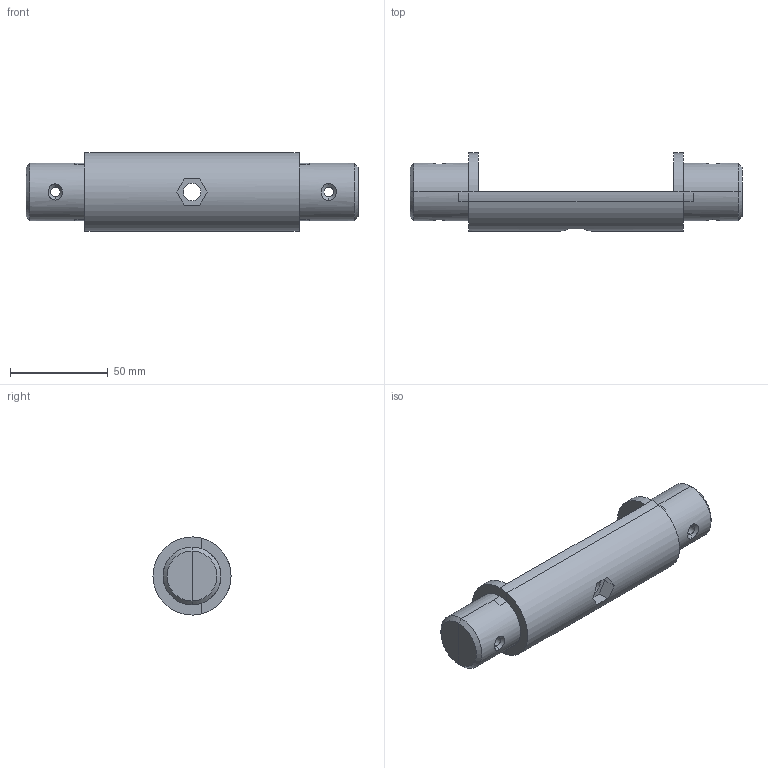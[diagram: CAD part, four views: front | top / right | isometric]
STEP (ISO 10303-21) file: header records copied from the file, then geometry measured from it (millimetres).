
FILE_DESCRIPTION (( 'STEP AP214' ), '1' );
FILE_NAME ('084.313.004.STEP', '2016-07-08T14:28:35', ( '' ), ( '' ), 'SwSTEP 2.0', 'SolidWorks 2016', '' );
FILE_SCHEMA (( 'AUTOMOTIVE_DESIGN' ));
Length unit declared in the file: millimetre
Products named in the file (3): 084.313.004A; 084.313.004B; 084.313.004
Assembly tree (2 placements, depth 2):
  084.313.004
    084.313.004B
    084.313.004A
Bounding box: 170 x 40 x 40 mm (x, y, z)
Volume: 68603.7 mm3; surface area: 41833.6 mm2
Topology: 2 solids, 2 shells, 329 faces, 793 edges, 449 vertices
Faces by surface type: cylinder 124, bspline 64, plane 62, torus 43, sphere 24, cone 12
Entity records: 17447 total; most frequent: CARTESIAN_POINT 10167, ORIENTED_EDGE 1522, DIRECTION 1479, EDGE_CURVE 761, AXIS2_PLACEMENT_3D 609, VERTEX_POINT 441, EDGE_LOOP 346, CIRCLE 339
